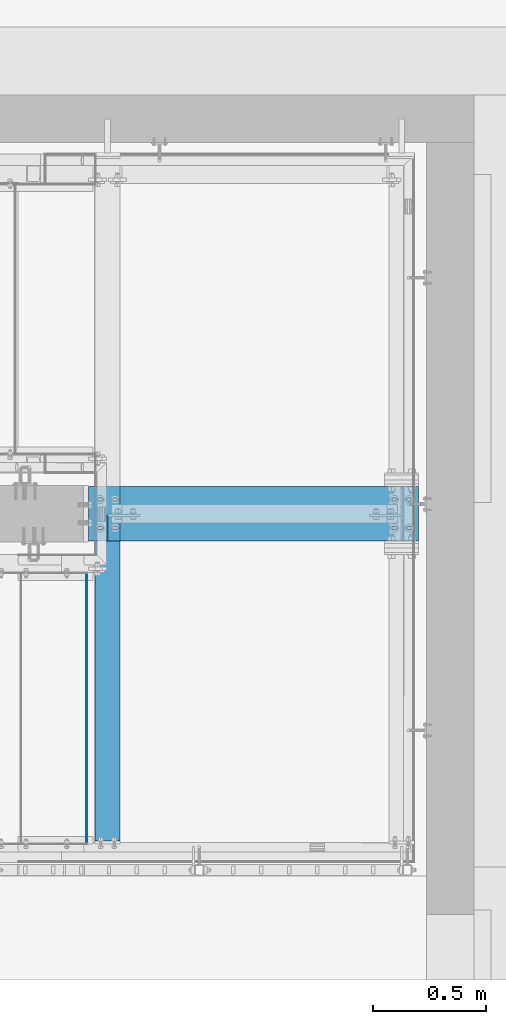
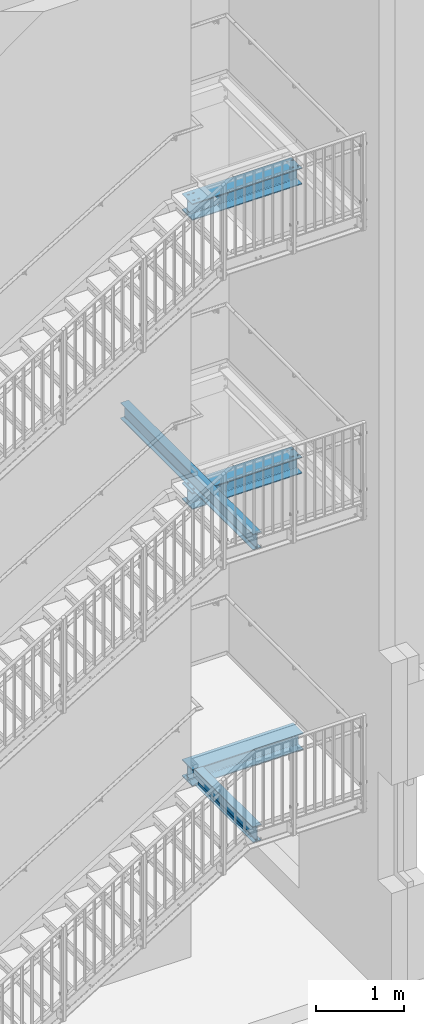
# One storey, part 34 of 410: 6 beams, 30 openings.
"""IFC2X3 building model written with IfcOpenShell, lengths in millimetres."""

from ifc_helpers import new_model, entity, si_unit, converted_unit, point, frame, frame_2d, origin, origin_with_axes, origin_2d, origin_2d_with_axis, place, context, project, spatial, circle_curve, line_curve, trimmed, segment, composite_curve, rectangle, circle, i_section, outline, extrude, material, element, save


model = new_model("IFC2X3")

# Units and contexts
model_context = context("Model", 3, precision=1e-09, world=origin_with_axes())
ifc_project = project(units=[si_unit("LENGTHUNIT", "METRE", prefix="MILLI"), si_unit("AREAUNIT", "SQUARE_METRE"), si_unit("VOLUMEUNIT", "CUBIC_METRE"), converted_unit("PLANEANGLEUNIT", "DEGREE", entity("IfcPlaneAngleMeasure", 0.01745329), si_unit("PLANEANGLEUNIT", "RADIAN"), dimensions=[0, 0, 0, 0, 0, 0, 0])], contexts=[model_context])

# Site, building, storey
site_placement = place(None, origin_with_axes())
site = spatial("IfcSite", under=ifc_project, at=site_placement, Name="mKR Teilneubau & Sanierung BA1 - Ostfildern", CompositionType="ELEMENT")
building_placement = place(site_placement, origin_with_axes())
building = spatial("IfcBuilding", under=site, at=building_placement, Name="Struktur 1", CompositionType="ELEMENT")
storey_placement = place(building_placement, origin_with_axes())
storey = spatial("IfcBuildingStorey", under=building, at=storey_placement, Name="Default Storey", CompositionType="ELEMENT", Elevation=0.0)

# Beam, openings
ifc_material = material(Name="S235JR")
beam_1_placement = place(None, frame((1795.0, 16980.0, 1518.0434785), z_axis=(1.0, 0.0, 0.0), x_axis=(0.0, 1.0, 0.0)))
beam_1 = element("IfcBeam", 1, at=beam_1_placement, inside=storey, material=ifc_material, Name="-", ObjectType="-", context=model_context, shape_type="SweptSolid", body=[
    extrude(i_section(OverallWidth=240.0, OverallDepth=230.0, WebThickness=7.5, FlangeThickness=12.0, FilletRadius=21.0, at=origin_2d()), origin(), (0.0, 0.0, 1.0), 1440.001468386),
])
opening_1_placement = place(beam_1_placement, frame((55.999, 102.5, 60.001468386), z_axis=(0.0, -1.0, 0.0), x_axis=(0.0, 0.0, -1.0)))
element("IfcOpeningElement", 2, at=opening_1_placement, cuts=beam_1, ObjectType="Opening", context=model_context, shape_type="SweptSolid", body=[
    extrude(outline(composite_curve([segment(trimmed(line_curve((0.0, 0.0), (1.0, 0.0), 16.0), [point((0.0, 0.0))], [point((16.0, 0.0))], True, "CARTESIAN"), True, "CONTINUOUS"), segment(trimmed(circle_curve(frame_2d((16.0, 7.001), x_axis=(1.0, 0.0)), 7.001), [point((16.0, 0.0))], [point((16.0, 14.002))], True, "CARTESIAN"), True, "CONTINUOUS"), segment(trimmed(line_curve((16.0, 14.002), (-1.0, 0.0), 16.0), [point((16.0, 14.002))], [point((0.0, 14.002))], True, "CARTESIAN"), True, "CONTINUOUS"), segment(trimmed(circle_curve(frame_2d((0.0, 7.001), x_axis=(1.0, 0.0)), 7.001), [point((0.0, 14.002))], [point((0.0, 0.0))], True, "CARTESIAN"), True, "CONTINUOUS")], self_intersect=False)), origin(), (0.0, 0.0, -1.0), 13.0),
])
opening_2_placement = place(beam_1_placement, frame((55.999, 102.5, 1426.001468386), z_axis=(0.0, -1.0, 0.0), x_axis=(0.0, 0.0, -1.0)))
element("IfcOpeningElement", 3, at=opening_2_placement, cuts=beam_1, ObjectType="Opening", context=model_context, shape_type="SweptSolid", body=[
    extrude(outline(composite_curve([segment(trimmed(line_curve((0.0, 0.0), (1.0, 0.0), 16.0), [point((0.0, 0.0))], [point((16.0, 0.0))], True, "CARTESIAN"), True, "CONTINUOUS"), segment(trimmed(circle_curve(frame_2d((16.0, 7.001), x_axis=(1.0, 0.0)), 7.001), [point((16.0, 0.0))], [point((16.0, 14.002))], True, "CARTESIAN"), True, "CONTINUOUS"), segment(trimmed(line_curve((16.0, 14.002), (-1.0, 0.0), 16.0), [point((16.0, 14.002))], [point((0.0, 14.002))], True, "CARTESIAN"), True, "CONTINUOUS"), segment(trimmed(circle_curve(frame_2d((0.0, 7.001), x_axis=(1.0, 0.0)), 7.001), [point((0.0, 14.002))], [point((0.0, 0.0))], True, "CARTESIAN"), True, "CONTINUOUS")], self_intersect=False)), origin(), (0.0, 0.0, -1.0), 13.0),
])
opening_3_placement = place(beam_1_placement, frame((-70.001, 102.5, 1426.001468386), z_axis=(0.0, -1.0, 0.0), x_axis=(0.0, 0.0, -1.0)))
element("IfcOpeningElement", 4, at=opening_3_placement, cuts=beam_1, ObjectType="Opening", context=model_context, shape_type="SweptSolid", body=[
    extrude(outline(composite_curve([segment(trimmed(line_curve((0.0, 0.0), (1.0, 0.0), 16.0), [point((0.0, 0.0))], [point((16.0, 0.0))], True, "CARTESIAN"), True, "CONTINUOUS"), segment(trimmed(circle_curve(frame_2d((16.0, 7.001), x_axis=(1.0, 0.0)), 7.001), [point((16.0, 0.0))], [point((16.0, 14.002))], True, "CARTESIAN"), True, "CONTINUOUS"), segment(trimmed(line_curve((16.0, 14.002), (-1.0, 0.0), 16.0), [point((16.0, 14.002))], [point((0.0, 14.002))], True, "CARTESIAN"), True, "CONTINUOUS"), segment(trimmed(circle_curve(frame_2d((0.0, 7.001), x_axis=(1.0, 0.0)), 7.001), [point((0.0, 14.002))], [point((0.0, 0.0))], True, "CARTESIAN"), True, "CONTINUOUS")], self_intersect=False)), origin(), (0.0, 0.0, -1.0), 13.0),
])
opening_4_placement = place(beam_1_placement, frame((55.999, 102.5, 126.001468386), z_axis=(0.0, -1.0, 0.0), x_axis=(0.0, 0.0, -1.0)))
element("IfcOpeningElement", 5, at=opening_4_placement, cuts=beam_1, ObjectType="Opening", context=model_context, shape_type="SweptSolid", body=[
    extrude(outline(composite_curve([segment(trimmed(line_curve((0.0, 0.0), (1.0, 0.0), 16.0), [point((0.0, 0.0))], [point((16.0, 0.0))], True, "CARTESIAN"), True, "CONTINUOUS"), segment(trimmed(circle_curve(frame_2d((16.0, 7.001), x_axis=(1.0, 0.0)), 7.001), [point((16.0, 0.0))], [point((16.0, 14.002))], True, "CARTESIAN"), True, "CONTINUOUS"), segment(trimmed(line_curve((16.0, 14.002), (-1.0, 0.0), 16.0), [point((16.0, 14.002))], [point((0.0, 14.002))], True, "CARTESIAN"), True, "CONTINUOUS"), segment(trimmed(circle_curve(frame_2d((0.0, 7.001), x_axis=(1.0, 0.0)), 7.001), [point((0.0, 14.002))], [point((0.0, 0.0))], True, "CARTESIAN"), True, "CONTINUOUS")], self_intersect=False)), origin(), (0.0, 0.0, -1.0), 13.0),
])
opening_5_placement = place(beam_1_placement, frame((55.999, 102.5, 1360.001468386), z_axis=(0.0, -1.0, 0.0), x_axis=(0.0, 0.0, -1.0)))
element("IfcOpeningElement", 6, at=opening_5_placement, cuts=beam_1, ObjectType="Opening", context=model_context, shape_type="SweptSolid", body=[
    extrude(outline(composite_curve([segment(trimmed(line_curve((0.0, 0.0), (1.0, 0.0), 16.0), [point((0.0, 0.0))], [point((16.0, 0.0))], True, "CARTESIAN"), True, "CONTINUOUS"), segment(trimmed(circle_curve(frame_2d((16.0, 7.001), x_axis=(1.0, 0.0)), 7.001), [point((16.0, 0.0))], [point((16.0, 14.002))], True, "CARTESIAN"), True, "CONTINUOUS"), segment(trimmed(line_curve((16.0, 14.002), (-1.0, 0.0), 16.0), [point((16.0, 14.002))], [point((0.0, 14.002))], True, "CARTESIAN"), True, "CONTINUOUS"), segment(trimmed(circle_curve(frame_2d((0.0, 7.001), x_axis=(1.0, 0.0)), 7.001), [point((0.0, 14.002))], [point((0.0, 0.0))], True, "CARTESIAN"), True, "CONTINUOUS")], self_intersect=False)), origin(), (0.0, 0.0, -1.0), 13.0),
])
opening_6_placement = place(beam_1_placement, frame((-70.001, 102.5, 60.001468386), z_axis=(0.0, -1.0, 0.0), x_axis=(0.0, 0.0, -1.0)))
element("IfcOpeningElement", 7, at=opening_6_placement, cuts=beam_1, ObjectType="Opening", context=model_context, shape_type="SweptSolid", body=[
    extrude(outline(composite_curve([segment(trimmed(line_curve((0.0, 0.0), (1.0, 0.0), 16.0), [point((0.0, 0.0))], [point((16.0, 0.0))], True, "CARTESIAN"), True, "CONTINUOUS"), segment(trimmed(circle_curve(frame_2d((16.0, 7.001), x_axis=(1.0, 0.0)), 7.001), [point((16.0, 0.0))], [point((16.0, 14.002))], True, "CARTESIAN"), True, "CONTINUOUS"), segment(trimmed(line_curve((16.0, 14.002), (-1.0, 0.0), 16.0), [point((16.0, 14.002))], [point((0.0, 14.002))], True, "CARTESIAN"), True, "CONTINUOUS"), segment(trimmed(circle_curve(frame_2d((0.0, 7.001), x_axis=(1.0, 0.0)), 7.001), [point((0.0, 14.002))], [point((0.0, 0.0))], True, "CARTESIAN"), True, "CONTINUOUS")], self_intersect=False)), origin(), (0.0, 0.0, -1.0), 13.0),
])
opening_7_placement = place(beam_1_placement, frame((-70.001, 102.5, 126.001468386), z_axis=(0.0, -1.0, 0.0), x_axis=(0.0, 0.0, -1.0)))
element("IfcOpeningElement", 8, at=opening_7_placement, cuts=beam_1, ObjectType="Opening", context=model_context, shape_type="SweptSolid", body=[
    extrude(outline(composite_curve([segment(trimmed(line_curve((0.0, 0.0), (1.0, 0.0), 16.0), [point((0.0, 0.0))], [point((16.0, 0.0))], True, "CARTESIAN"), True, "CONTINUOUS"), segment(trimmed(circle_curve(frame_2d((16.0, 7.001), x_axis=(1.0, 0.0)), 7.001), [point((16.0, 0.0))], [point((16.0, 14.002))], True, "CARTESIAN"), True, "CONTINUOUS"), segment(trimmed(line_curve((16.0, 14.002), (-1.0, 0.0), 16.0), [point((16.0, 14.002))], [point((0.0, 14.002))], True, "CARTESIAN"), True, "CONTINUOUS"), segment(trimmed(circle_curve(frame_2d((0.0, 7.001), x_axis=(1.0, 0.0)), 7.001), [point((0.0, 14.002))], [point((0.0, 0.0))], True, "CARTESIAN"), True, "CONTINUOUS")], self_intersect=False)), origin(), (0.0, 0.0, -1.0), 13.0),
])
opening_8_placement = place(beam_1_placement, frame((-70.001, 102.5, 1360.001468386), z_axis=(0.0, -1.0, 0.0), x_axis=(0.0, 0.0, -1.0)))
element("IfcOpeningElement", 9, at=opening_8_placement, cuts=beam_1, ObjectType="Opening", context=model_context, shape_type="SweptSolid", body=[
    extrude(outline(composite_curve([segment(trimmed(line_curve((0.0, 0.0), (1.0, 0.0), 16.0), [point((0.0, 0.0))], [point((16.0, 0.0))], True, "CARTESIAN"), True, "CONTINUOUS"), segment(trimmed(circle_curve(frame_2d((16.0, 7.001), x_axis=(1.0, 0.0)), 7.001), [point((16.0, 0.0))], [point((16.0, 14.002))], True, "CARTESIAN"), True, "CONTINUOUS"), segment(trimmed(line_curve((16.0, 14.002), (-1.0, 0.0), 16.0), [point((16.0, 14.002))], [point((0.0, 14.002))], True, "CARTESIAN"), True, "CONTINUOUS"), segment(trimmed(circle_curve(frame_2d((0.0, 7.001), x_axis=(1.0, 0.0)), 7.001), [point((0.0, 14.002))], [point((0.0, 0.0))], True, "CARTESIAN"), True, "CONTINUOUS")], self_intersect=False)), origin(), (0.0, 0.0, -1.0), 13.0),
])
opening_9_placement = place(beam_1_placement, frame((4.25, 73.0, 15.0), z_axis=(-1.0, 0.0, 0.0), x_axis=(0.0, 0.0, 1.0)))
element("IfcOpeningElement", 10, at=opening_9_placement, cuts=beam_1, ObjectType="Opening", context=model_context, shape_type="SweptSolid", body=[
    extrude(circle(Radius=7.001, at=origin_2d_with_axis()), origin(), (0.0, 0.0, 1.0), 8.5),
])
opening_10_placement = place(beam_1_placement, frame((4.25, -73.0, 15.0), z_axis=(-1.0, 0.0, 0.0), x_axis=(0.0, 0.0, 1.0)))
element("IfcOpeningElement", 11, at=opening_10_placement, cuts=beam_1, ObjectType="Opening", context=model_context, shape_type="SweptSolid", body=[
    extrude(circle(Radius=7.001, at=origin_2d_with_axis()), origin(), (0.0, 0.0, 1.0), 8.5),
])

beam_2_placement = place(None, frame((1795.0, 16980.0, -2320.599999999), z_axis=(1.0, 0.0, 0.0), x_axis=(0.0, 1.0, 0.0)))
beam_2 = element("IfcBeam", 12, at=beam_2_placement, inside=storey, material=ifc_material, Name="-", ObjectType="-", context=model_context, shape_type="SweptSolid", body=[
    extrude(i_section(OverallWidth=240.0, OverallDepth=230.0, WebThickness=7.5, FlangeThickness=12.0, FilletRadius=21.0, at=origin_2d()), origin(), (0.0, 0.0, 1.0), 1460.001468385),
])
opening_11_placement = place(beam_2_placement, frame((4.25, 73.0, 15.0), z_axis=(-1.0, 0.0, 0.0), x_axis=(0.0, 0.0, 1.0)))
element("IfcOpeningElement", 13, at=opening_11_placement, cuts=beam_2, ObjectType="Opening", context=model_context, shape_type="SweptSolid", body=[
    extrude(circle(Radius=7.001, at=origin_2d_with_axis()), origin(), (0.0, 0.0, 1.0), 8.5),
])
opening_12_placement = place(beam_2_placement, frame((4.25, -73.0, 15.0), z_axis=(-1.0, 0.0, 0.0), x_axis=(0.0, 0.0, 1.0)))
element("IfcOpeningElement", 14, at=opening_12_placement, cuts=beam_2, ObjectType="Opening", context=model_context, shape_type="SweptSolid", body=[
    extrude(circle(Radius=7.001, at=origin_2d_with_axis()), origin(), (0.0, 0.0, 1.0), 8.5),
])

# Beam
beam_3_placement = place(None, frame((1788.5, 15519.999999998, -2304.4), z_axis=(0.0, -1.0, 0.0), x_axis=(1.0, 0.0, 0.0)))
element("IfcBeam", 15, at=beam_3_placement, inside=storey, material=ifc_material, Name="-", ObjectType="-", context=model_context, shape_type="SweptSolid", body=[
    extrude(rectangle(XDim=3.0, YDim=40.0, at=origin_2d()), origin(), (0.0, 0.0, -1.0), 1200.0),
])

# Beam, openings
beam_4_placement = place(None, frame((1880.001468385, 18549.996360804, 1743.0434785), z_axis=(0.0, 1.0, 0.0), x_axis=(1.0, 0.0, 0.0)))
beam_4 = element("IfcBeam", 16, at=beam_4_placement, inside=storey, material=ifc_material, Name="-", ObjectType="-", context=model_context, shape_type="SweptSolid", body=[
    extrude(i_section(OverallWidth=110.0, OverallDepth=220.0, WebThickness=5.9, FlangeThickness=9.2, FilletRadius=12.0, at=origin_2d()), origin(), (0.0, 0.0, -1.0), 3014.996360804),
])
opening_13_placement = place(beam_4_placement, frame((25.999, 110.5, -1640.996360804), z_axis=(0.0, 1.0, 0.0), x_axis=(0.0, 0.0, 1.0)))
element("IfcOpeningElement", 17, at=opening_13_placement, cuts=beam_4, ObjectType="Opening", context=model_context, shape_type="SweptSolid", body=[
    extrude(outline(composite_curve([segment(trimmed(line_curve((0.0, 0.0), (1.0, 0.0), 16.0), [point((0.0, 0.0))], [point((16.0, 0.0))], True, "CARTESIAN"), True, "CONTINUOUS"), segment(trimmed(circle_curve(frame_2d((16.0, 7.001), x_axis=(1.0, 0.0)), 7.001), [point((16.0, 0.0))], [point((16.0, 14.002))], True, "CARTESIAN"), True, "CONTINUOUS"), segment(trimmed(line_curve((16.0, 14.002), (-1.0, 0.0), 16.0), [point((16.0, 14.002))], [point((0.0, 14.002))], True, "CARTESIAN"), True, "CONTINUOUS"), segment(trimmed(circle_curve(frame_2d((0.0, 7.001), x_axis=(1.0, 0.0)), 7.001), [point((0.0, 14.002))], [point((0.0, 0.0))], True, "CARTESIAN"), True, "CONTINUOUS")], self_intersect=False)), origin(), (0.0, 0.0, -1.0), 10.2),
])
opening_14_placement = place(beam_4_placement, frame((25.999, 110.5, -1514.996360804), z_axis=(0.0, 1.0, 0.0), x_axis=(0.0, 0.0, 1.0)))
element("IfcOpeningElement", 18, at=opening_14_placement, cuts=beam_4, ObjectType="Opening", context=model_context, shape_type="SweptSolid", body=[
    extrude(outline(composite_curve([segment(trimmed(line_curve((0.0, 0.0), (1.0, 0.0), 16.0), [point((0.0, 0.0))], [point((16.0, 0.0))], True, "CARTESIAN"), True, "CONTINUOUS"), segment(trimmed(circle_curve(frame_2d((16.0, 7.001), x_axis=(1.0, 0.0)), 7.001), [point((16.0, 0.0))], [point((16.0, 14.002))], True, "CARTESIAN"), True, "CONTINUOUS"), segment(trimmed(line_curve((16.0, 14.002), (-1.0, 0.0), 16.0), [point((16.0, 14.002))], [point((0.0, 14.002))], True, "CARTESIAN"), True, "CONTINUOUS"), segment(trimmed(circle_curve(frame_2d((0.0, 7.001), x_axis=(1.0, 0.0)), 7.001), [point((0.0, 14.002))], [point((0.0, 0.0))], True, "CARTESIAN"), True, "CONTINUOUS")], self_intersect=False)), origin(), (0.0, 0.0, -1.0), 10.2),
])
opening_15_placement = place(beam_4_placement, frame((-40.001, 110.5, -1514.996360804), z_axis=(0.0, 1.0, 0.0), x_axis=(0.0, 0.0, 1.0)))
element("IfcOpeningElement", 19, at=opening_15_placement, cuts=beam_4, ObjectType="Opening", context=model_context, shape_type="SweptSolid", body=[
    extrude(outline(composite_curve([segment(trimmed(line_curve((0.0, 0.0), (1.0, 0.0), 16.0), [point((0.0, 0.0))], [point((16.0, 0.0))], True, "CARTESIAN"), True, "CONTINUOUS"), segment(trimmed(circle_curve(frame_2d((16.0, 7.001), x_axis=(1.0, 0.0)), 7.001), [point((16.0, 0.0))], [point((16.0, 14.002))], True, "CARTESIAN"), True, "CONTINUOUS"), segment(trimmed(line_curve((16.0, 14.002), (-1.0, 0.0), 16.0), [point((16.0, 14.002))], [point((0.0, 14.002))], True, "CARTESIAN"), True, "CONTINUOUS"), segment(trimmed(circle_curve(frame_2d((0.0, 7.001), x_axis=(1.0, 0.0)), 7.001), [point((0.0, 14.002))], [point((0.0, 0.0))], True, "CARTESIAN"), True, "CONTINUOUS")], self_intersect=False)), origin(), (0.0, 0.0, -1.0), 10.2),
])
opening_16_placement = place(beam_4_placement, frame((-40.001, 110.5, -1640.996360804), z_axis=(0.0, 1.0, 0.0), x_axis=(0.0, 0.0, 1.0)))
element("IfcOpeningElement", 20, at=opening_16_placement, cuts=beam_4, ObjectType="Opening", context=model_context, shape_type="SweptSolid", body=[
    extrude(outline(composite_curve([segment(trimmed(line_curve((0.0, 0.0), (1.0, 0.0), 16.0), [point((0.0, 0.0))], [point((16.0, 0.0))], True, "CARTESIAN"), True, "CONTINUOUS"), segment(trimmed(circle_curve(frame_2d((16.0, 7.001), x_axis=(1.0, 0.0)), 7.001), [point((16.0, 0.0))], [point((16.0, 14.002))], True, "CARTESIAN"), True, "CONTINUOUS"), segment(trimmed(line_curve((16.0, 14.002), (-1.0, 0.0), 16.0), [point((16.0, 14.002))], [point((0.0, 14.002))], True, "CARTESIAN"), True, "CONTINUOUS"), segment(trimmed(circle_curve(frame_2d((0.0, 7.001), x_axis=(1.0, 0.0)), 7.001), [point((0.0, 14.002))], [point((0.0, 0.0))], True, "CARTESIAN"), True, "CONTINUOUS")], self_intersect=False)), origin(), (0.0, 0.0, -1.0), 10.2),
])
opening_17_placement = place(beam_4_placement, frame((-3.45, 79.0, -15.0), z_axis=(1.0, 0.0, 0.0), x_axis=(0.0, 0.0, -1.0)))
element("IfcOpeningElement", 21, at=opening_17_placement, cuts=beam_4, ObjectType="Opening", context=model_context, shape_type="SweptSolid", body=[
    extrude(circle(Radius=7.001, at=origin_2d_with_axis()), origin(), (0.0, 0.0, 1.0), 6.9),
])
opening_18_placement = place(beam_4_placement, frame((-3.45, -79.0, -15.0), z_axis=(1.0, 0.0, 0.0), x_axis=(0.0, 0.0, -1.0)))
element("IfcOpeningElement", 22, at=opening_18_placement, cuts=beam_4, ObjectType="Opening", context=model_context, shape_type="SweptSolid", body=[
    extrude(circle(Radius=7.001, at=origin_2d_with_axis()), origin(), (0.0, 0.0, 1.0), 6.9),
])

beam_5_placement = place(None, frame((1880.001468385, 15535.000000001, -2315.599999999), z_axis=(0.0, 1.0, 0.0), x_axis=(1.0, 0.0, 0.0)))
beam_5 = element("IfcBeam", 23, at=beam_5_placement, inside=storey, material=ifc_material, Name="-", ObjectType="-", context=model_context, shape_type="SweptSolid", body=[
    extrude(i_section(OverallWidth=110.0, OverallDepth=220.0, WebThickness=5.9, FlangeThickness=9.2, FilletRadius=12.0, at=origin_2d()), origin(), (0.0, 0.0, 1.0), 1439.999999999),
])
opening_19_placement = place(beam_5_placement, frame((155.1, 141.093548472, 1324.998999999), z_axis=(1.0, 0.0, 0.0), x_axis=(0.0, 0.707106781, 0.707106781)))
element("IfcOpeningElement", 24, at=opening_19_placement, cuts=beam_5, ObjectType="Opening", context=model_context, shape_type="SweptSolid", body=[
    extrude(outline(composite_curve([segment(trimmed(circle_curve(frame_2d((7.071067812, 7.071067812), x_axis=(1.0, 0.0)), 10.0), [point((0.0, 0.0))], [point((14.142135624, 0.0))], True, "CARTESIAN"), True, "CONTINUOUS"), segment(trimmed(line_curve((14.142135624, 0.0), (0.707106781, 0.707106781), 130.21660446), [point((14.142135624, 0.0))], [point((106.219179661, 92.077044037))], True, "CARTESIAN"), True, "CONTINUOUS"), segment(trimmed(circle_curve(frame_2d((99.148111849, 99.148111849), x_axis=(1.0, 0.0)), 10.0), [point((106.219179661, 92.077044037))], [point((106.219179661, 106.219179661))], True, "CARTESIAN"), True, "CONTINUOUS"), segment(trimmed(line_curve((106.219179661, 106.219179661), (-0.707106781, 0.707106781), 51.094548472), [point((106.219179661, 106.219179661))], [point((70.089877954, 142.348481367))], True, "CARTESIAN"), True, "CONTINUOUS"), segment(trimmed(circle_curve(frame_2d((63.018810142, 135.277413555), x_axis=(1.0, 0.0)), 10.0), [point((70.089877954, 142.348481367))], [point((55.94774233, 142.348481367))], True, "CARTESIAN"), True, "CONTINUOUS"), segment(trimmed(line_curve((55.94774233, 142.348481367), (-0.707106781, -0.707106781), 130.21660446), [point((55.94774233, 142.348481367))], [point((-36.129301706, 50.27143733))], True, "CARTESIAN"), True, "CONTINUOUS"), segment(trimmed(circle_curve(frame_2d((-29.058233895, 43.200369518), x_axis=(1.0, 0.0)), 10.0), [point((-36.129301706, 50.27143733))], [point((-36.129301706, 36.129301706))], True, "CARTESIAN"), True, "CONTINUOUS"), segment(trimmed(line_curve((-36.129301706, 36.129301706), (0.707106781, -0.707106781), 51.094548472), [point((-36.129301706, 36.129301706))], [point((0.0, 0.0))], True, "CARTESIAN"), True, "CONTINUOUS")], self_intersect=False)), origin(), (0.0, 0.0, -1.0), 310.2),
])
opening_20_placement = place(beam_5_placement, frame((155.1, -89.999, 1324.998999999), z_axis=(1.0, 0.0, 0.0), x_axis=(0.0, 0.707106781, 0.707106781)))
element("IfcOpeningElement", 25, at=opening_20_placement, cuts=beam_5, ObjectType="Opening", context=model_context, shape_type="SweptSolid", body=[
    extrude(outline(composite_curve([segment(trimmed(circle_curve(frame_2d((7.071067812, 7.071067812), x_axis=(1.0, 0.0)), 10.0), [point((0.0, 0.0))], [point((14.142135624, 0.0))], True, "CARTESIAN"), True, "CONTINUOUS"), segment(trimmed(line_curve((14.142135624, 0.0), (0.707106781, 0.707106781), 134.931190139), [point((14.142135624, 0.0))], [point((109.552895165, 95.410759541))], True, "CARTESIAN"), True, "CONTINUOUS"), segment(trimmed(circle_curve(frame_2d((102.481827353, 102.481827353), x_axis=(1.0, 0.0)), 10.0), [point((109.552895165, 95.410759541))], [point((109.552895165, 109.552895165))], True, "CARTESIAN"), True, "CONTINUOUS"), segment(trimmed(line_curve((109.552895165, 109.552895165), (-0.707106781, 0.707106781), 40.031926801), [point((109.552895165, 109.552895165))], [point((81.24604826, 137.85974207))], True, "CARTESIAN"), True, "CONTINUOUS"), segment(trimmed(circle_curve(frame_2d((74.174980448, 130.788674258), x_axis=(1.0, 0.0)), 10.0), [point((81.24604826, 137.85974207))], [point((67.103912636, 137.85974207))], True, "CARTESIAN"), True, "CONTINUOUS"), segment(trimmed(line_curve((67.103912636, 137.85974207), (-0.707106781, -0.707106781), 134.931190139), [point((67.103912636, 137.85974207))], [point((-28.306846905, 42.448982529))], True, "CARTESIAN"), True, "CONTINUOUS"), segment(trimmed(circle_curve(frame_2d((-21.235779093, 35.377914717), x_axis=(1.0, 0.0)), 10.0), [point((-28.306846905, 42.448982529))], [point((-28.306846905, 28.306846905))], True, "CARTESIAN"), True, "CONTINUOUS"), segment(trimmed(line_curve((-28.306846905, 28.306846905), (0.707106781, -0.707106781), 40.031926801), [point((-28.306846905, 28.306846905))], [point((0.0, 0.0))], True, "CARTESIAN"), True, "CONTINUOUS")], self_intersect=False)), origin(), (0.0, 0.0, -1.0), 310.2),
])

beam_6_placement = place(None, frame((1795.0, 16980.0, 5530.0), z_axis=(1.0, 0.0, 0.0), x_axis=(0.0, 1.0, 0.0)))
beam_6 = element("IfcBeam", 26, at=beam_6_placement, inside=storey, material=ifc_material, Name="-", ObjectType="-", context=model_context, shape_type="SweptSolid", body=[
    extrude(i_section(OverallWidth=240.0, OverallDepth=230.0, WebThickness=7.5, FlangeThickness=12.0, FilletRadius=21.0, at=origin_2d()), origin(), (0.0, 0.0, 1.0), 1440.001468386),
])
opening_21_placement = place(beam_6_placement, frame((55.999, 102.5, 60.001468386), z_axis=(0.0, -1.0, 0.0), x_axis=(0.0, 0.0, -1.0)))
element("IfcOpeningElement", 27, at=opening_21_placement, cuts=beam_6, ObjectType="Opening", context=model_context, shape_type="SweptSolid", body=[
    extrude(outline(composite_curve([segment(trimmed(line_curve((0.0, 0.0), (1.0, 0.0), 16.0), [point((0.0, 0.0))], [point((16.0, 0.0))], True, "CARTESIAN"), True, "CONTINUOUS"), segment(trimmed(circle_curve(frame_2d((16.0, 7.001), x_axis=(1.0, 0.0)), 7.001), [point((16.0, 0.0))], [point((16.0, 14.002))], True, "CARTESIAN"), True, "CONTINUOUS"), segment(trimmed(line_curve((16.0, 14.002), (-1.0, 0.0), 16.0), [point((16.0, 14.002))], [point((0.0, 14.002))], True, "CARTESIAN"), True, "CONTINUOUS"), segment(trimmed(circle_curve(frame_2d((0.0, 7.001), x_axis=(1.0, 0.0)), 7.001), [point((0.0, 14.002))], [point((0.0, 0.0))], True, "CARTESIAN"), True, "CONTINUOUS")], self_intersect=False)), origin(), (0.0, 0.0, -1.0), 13.0),
])
opening_22_placement = place(beam_6_placement, frame((-70.001, 102.5, 60.001468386), z_axis=(0.0, -1.0, 0.0), x_axis=(0.0, 0.0, -1.0)))
element("IfcOpeningElement", 28, at=opening_22_placement, cuts=beam_6, ObjectType="Opening", context=model_context, shape_type="SweptSolid", body=[
    extrude(outline(composite_curve([segment(trimmed(line_curve((0.0, 0.0), (1.0, 0.0), 16.0), [point((0.0, 0.0))], [point((16.0, 0.0))], True, "CARTESIAN"), True, "CONTINUOUS"), segment(trimmed(circle_curve(frame_2d((16.0, 7.001), x_axis=(1.0, 0.0)), 7.001), [point((16.0, 0.0))], [point((16.0, 14.002))], True, "CARTESIAN"), True, "CONTINUOUS"), segment(trimmed(line_curve((16.0, 14.002), (-1.0, 0.0), 16.0), [point((16.0, 14.002))], [point((0.0, 14.002))], True, "CARTESIAN"), True, "CONTINUOUS"), segment(trimmed(circle_curve(frame_2d((0.0, 7.001), x_axis=(1.0, 0.0)), 7.001), [point((0.0, 14.002))], [point((0.0, 0.0))], True, "CARTESIAN"), True, "CONTINUOUS")], self_intersect=False)), origin(), (0.0, 0.0, -1.0), 13.0),
])
opening_23_placement = place(beam_6_placement, frame((55.999, 102.5, 1360.001468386), z_axis=(0.0, -1.0, 0.0), x_axis=(0.0, 0.0, -1.0)))
element("IfcOpeningElement", 29, at=opening_23_placement, cuts=beam_6, ObjectType="Opening", context=model_context, shape_type="SweptSolid", body=[
    extrude(outline(composite_curve([segment(trimmed(line_curve((0.0, 0.0), (1.0, 0.0), 16.0), [point((0.0, 0.0))], [point((16.0, 0.0))], True, "CARTESIAN"), True, "CONTINUOUS"), segment(trimmed(circle_curve(frame_2d((16.0, 7.001), x_axis=(1.0, 0.0)), 7.001), [point((16.0, 0.0))], [point((16.0, 14.002))], True, "CARTESIAN"), True, "CONTINUOUS"), segment(trimmed(line_curve((16.0, 14.002), (-1.0, 0.0), 16.0), [point((16.0, 14.002))], [point((0.0, 14.002))], True, "CARTESIAN"), True, "CONTINUOUS"), segment(trimmed(circle_curve(frame_2d((0.0, 7.001), x_axis=(1.0, 0.0)), 7.001), [point((0.0, 14.002))], [point((0.0, 0.0))], True, "CARTESIAN"), True, "CONTINUOUS")], self_intersect=False)), origin(), (0.0, 0.0, -1.0), 13.0),
])
opening_24_placement = place(beam_6_placement, frame((55.999, 102.5, 1426.001468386), z_axis=(0.0, -1.0, 0.0), x_axis=(0.0, 0.0, -1.0)))
element("IfcOpeningElement", 30, at=opening_24_placement, cuts=beam_6, ObjectType="Opening", context=model_context, shape_type="SweptSolid", body=[
    extrude(outline(composite_curve([segment(trimmed(line_curve((0.0, 0.0), (1.0, 0.0), 16.0), [point((0.0, 0.0))], [point((16.0, 0.0))], True, "CARTESIAN"), True, "CONTINUOUS"), segment(trimmed(circle_curve(frame_2d((16.0, 7.001), x_axis=(1.0, 0.0)), 7.001), [point((16.0, 0.0))], [point((16.0, 14.002))], True, "CARTESIAN"), True, "CONTINUOUS"), segment(trimmed(line_curve((16.0, 14.002), (-1.0, 0.0), 16.0), [point((16.0, 14.002))], [point((0.0, 14.002))], True, "CARTESIAN"), True, "CONTINUOUS"), segment(trimmed(circle_curve(frame_2d((0.0, 7.001), x_axis=(1.0, 0.0)), 7.001), [point((0.0, 14.002))], [point((0.0, 0.0))], True, "CARTESIAN"), True, "CONTINUOUS")], self_intersect=False)), origin(), (0.0, 0.0, -1.0), 13.0),
])
opening_25_placement = place(beam_6_placement, frame((-70.001, 102.5, 1426.001468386), z_axis=(0.0, -1.0, 0.0), x_axis=(0.0, 0.0, -1.0)))
element("IfcOpeningElement", 31, at=opening_25_placement, cuts=beam_6, ObjectType="Opening", context=model_context, shape_type="SweptSolid", body=[
    extrude(outline(composite_curve([segment(trimmed(line_curve((0.0, 0.0), (1.0, 0.0), 16.0), [point((0.0, 0.0))], [point((16.0, 0.0))], True, "CARTESIAN"), True, "CONTINUOUS"), segment(trimmed(circle_curve(frame_2d((16.0, 7.001), x_axis=(1.0, 0.0)), 7.001), [point((16.0, 0.0))], [point((16.0, 14.002))], True, "CARTESIAN"), True, "CONTINUOUS"), segment(trimmed(line_curve((16.0, 14.002), (-1.0, 0.0), 16.0), [point((16.0, 14.002))], [point((0.0, 14.002))], True, "CARTESIAN"), True, "CONTINUOUS"), segment(trimmed(circle_curve(frame_2d((0.0, 7.001), x_axis=(1.0, 0.0)), 7.001), [point((0.0, 14.002))], [point((0.0, 0.0))], True, "CARTESIAN"), True, "CONTINUOUS")], self_intersect=False)), origin(), (0.0, 0.0, -1.0), 13.0),
])
opening_26_placement = place(beam_6_placement, frame((55.999, 102.5, 126.001468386), z_axis=(0.0, -1.0, 0.0), x_axis=(0.0, 0.0, -1.0)))
element("IfcOpeningElement", 32, at=opening_26_placement, cuts=beam_6, ObjectType="Opening", context=model_context, shape_type="SweptSolid", body=[
    extrude(outline(composite_curve([segment(trimmed(line_curve((0.0, 0.0), (1.0, 0.0), 16.0), [point((0.0, 0.0))], [point((16.0, 0.0))], True, "CARTESIAN"), True, "CONTINUOUS"), segment(trimmed(circle_curve(frame_2d((16.0, 7.001), x_axis=(1.0, 0.0)), 7.001), [point((16.0, 0.0))], [point((16.0, 14.002))], True, "CARTESIAN"), True, "CONTINUOUS"), segment(trimmed(line_curve((16.0, 14.002), (-1.0, 0.0), 16.0), [point((16.0, 14.002))], [point((0.0, 14.002))], True, "CARTESIAN"), True, "CONTINUOUS"), segment(trimmed(circle_curve(frame_2d((0.0, 7.001), x_axis=(1.0, 0.0)), 7.001), [point((0.0, 14.002))], [point((0.0, 0.0))], True, "CARTESIAN"), True, "CONTINUOUS")], self_intersect=False)), origin(), (0.0, 0.0, -1.0), 13.0),
])
opening_27_placement = place(beam_6_placement, frame((-70.001, 102.5, 1360.001468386), z_axis=(0.0, -1.0, 0.0), x_axis=(0.0, 0.0, -1.0)))
element("IfcOpeningElement", 33, at=opening_27_placement, cuts=beam_6, ObjectType="Opening", context=model_context, shape_type="SweptSolid", body=[
    extrude(outline(composite_curve([segment(trimmed(line_curve((0.0, 0.0), (1.0, 0.0), 16.0), [point((0.0, 0.0))], [point((16.0, 0.0))], True, "CARTESIAN"), True, "CONTINUOUS"), segment(trimmed(circle_curve(frame_2d((16.0, 7.001), x_axis=(1.0, 0.0)), 7.001), [point((16.0, 0.0))], [point((16.0, 14.002))], True, "CARTESIAN"), True, "CONTINUOUS"), segment(trimmed(line_curve((16.0, 14.002), (-1.0, 0.0), 16.0), [point((16.0, 14.002))], [point((0.0, 14.002))], True, "CARTESIAN"), True, "CONTINUOUS"), segment(trimmed(circle_curve(frame_2d((0.0, 7.001), x_axis=(1.0, 0.0)), 7.001), [point((0.0, 14.002))], [point((0.0, 0.0))], True, "CARTESIAN"), True, "CONTINUOUS")], self_intersect=False)), origin(), (0.0, 0.0, -1.0), 13.0),
])
opening_28_placement = place(beam_6_placement, frame((-70.001, 102.5, 126.001468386), z_axis=(0.0, -1.0, 0.0), x_axis=(0.0, 0.0, -1.0)))
element("IfcOpeningElement", 34, at=opening_28_placement, cuts=beam_6, ObjectType="Opening", context=model_context, shape_type="SweptSolid", body=[
    extrude(outline(composite_curve([segment(trimmed(line_curve((0.0, 0.0), (1.0, 0.0), 16.0), [point((0.0, 0.0))], [point((16.0, 0.0))], True, "CARTESIAN"), True, "CONTINUOUS"), segment(trimmed(circle_curve(frame_2d((16.0, 7.001), x_axis=(1.0, 0.0)), 7.001), [point((16.0, 0.0))], [point((16.0, 14.002))], True, "CARTESIAN"), True, "CONTINUOUS"), segment(trimmed(line_curve((16.0, 14.002), (-1.0, 0.0), 16.0), [point((16.0, 14.002))], [point((0.0, 14.002))], True, "CARTESIAN"), True, "CONTINUOUS"), segment(trimmed(circle_curve(frame_2d((0.0, 7.001), x_axis=(1.0, 0.0)), 7.001), [point((0.0, 14.002))], [point((0.0, 0.0))], True, "CARTESIAN"), True, "CONTINUOUS")], self_intersect=False)), origin(), (0.0, 0.0, -1.0), 13.0),
])
opening_29_placement = place(beam_6_placement, frame((4.25, 73.0, 15.0), z_axis=(-1.0, 0.0, 0.0), x_axis=(0.0, 0.0, 1.0)))
element("IfcOpeningElement", 35, at=opening_29_placement, cuts=beam_6, ObjectType="Opening", context=model_context, shape_type="SweptSolid", body=[
    extrude(circle(Radius=7.001, at=origin_2d_with_axis()), origin(), (0.0, 0.0, 1.0), 8.5),
])
opening_30_placement = place(beam_6_placement, frame((4.25, -73.0, 15.0), z_axis=(-1.0, 0.0, 0.0), x_axis=(0.0, 0.0, 1.0)))
element("IfcOpeningElement", 36, at=opening_30_placement, cuts=beam_6, ObjectType="Opening", context=model_context, shape_type="SweptSolid", body=[
    extrude(circle(Radius=7.001, at=origin_2d_with_axis()), origin(), (0.0, 0.0, 1.0), 8.5),
])

save(model, "model.ifc")
